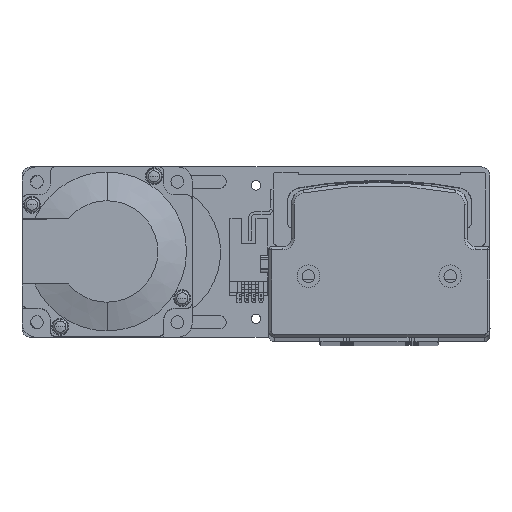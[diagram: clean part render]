
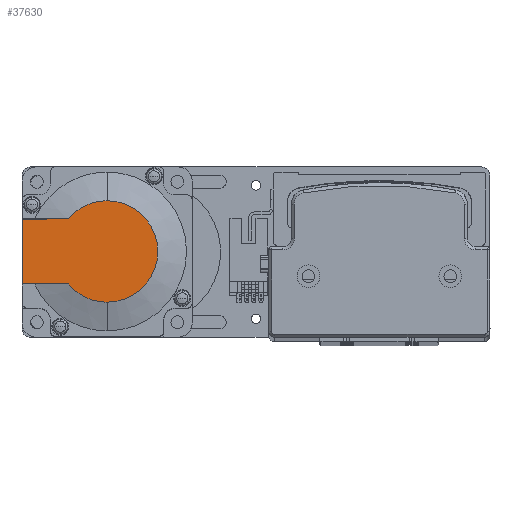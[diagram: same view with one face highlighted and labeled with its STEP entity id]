
A CAD part, top view. The second image highlights one B-rep face of the part: STEP entity #37630.
In plain terms, the highlighted planar face has unit normal (0, 0, 1) as drawn and (-1, 0, 0) by its records, which use the part's own axes.
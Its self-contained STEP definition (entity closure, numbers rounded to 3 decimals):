
#1257 = CARTESIAN_POINT ( 'NONE',  ( -118.5, 30., 25. ) ) ;
#3081 = DIRECTION ( 'NONE',  ( -1., 0., 0. ) ) ;
#3343 = LINE ( 'NONE', #38370, #23041 ) ;
#4553 = VERTEX_POINT ( 'NONE', #32052 ) ;
#5019 = DIRECTION ( 'NONE',  ( 0., -1., 0. ) ) ;
#6267 = VERTEX_POINT ( 'NONE', #44534 ) ;
#6303 = CARTESIAN_POINT ( 'NONE',  ( -118.5, 0., 17.881 ) ) ;
#7827 = LINE ( 'NONE', #1257, #18345 ) ;
#8813 = DIRECTION ( 'NONE',  ( -1., 0., 0. ) ) ;
#9183 = AXIS2_PLACEMENT_3D ( 'NONE', #37335, #13806, #41279 ) ;
#11528 = VERTEX_POINT ( 'NONE', #6303 ) ;
#13806 = DIRECTION ( 'NONE',  ( -1., 0., 0. ) ) ;
#14307 = EDGE_CURVE ( 'NONE', #34174, #48739, #37316, .T. ) ;
#14963 = AXIS2_PLACEMENT_3D ( 'NONE', #26665, #3081, #30587 ) ;
#15202 = CIRCLE ( 'NONE', #9183, 17.881 ) ;
#15334 = ORIENTED_EDGE ( 'NONE', *, *, #14307, .T. ) ;
#15615 = CARTESIAN_POINT ( 'NONE',  ( -118.5, 0., 0. ) ) ;
#16728 = CARTESIAN_POINT ( 'NONE',  ( -118.5, 0., 11.45 ) ) ;
#17203 = ORIENTED_EDGE ( 'NONE', *, *, #18127, .F. ) ;
#18127 = EDGE_CURVE ( 'NONE', #21748, #6267, #7827, .T. ) ;
#18345 = VECTOR ( 'NONE', #24858, 1000. ) ;
#19578 = DIRECTION ( 'NONE',  ( 0., 0., -1. ) ) ;
#20281 = CIRCLE ( 'NONE', #29916, 17.881 ) ;
#20417 = FACE_OUTER_BOUND ( 'NONE', #48137, .T. ) ;
#21748 = VERTEX_POINT ( 'NONE', #45082 ) ;
#22581 = EDGE_CURVE ( 'NONE', #11528, #4553, #20281, .T. ) ;
#23041 = VECTOR ( 'NONE', #42299, 1000. ) ;
#23427 = EDGE_CURVE ( 'NONE', #48739, #11528, #15202, .T. ) ;
#24858 = DIRECTION ( 'NONE',  ( 0., 0., 1. ) ) ;
#26665 = CARTESIAN_POINT ( 'NONE',  ( -118.5, -8.941, 0. ) ) ;
#29916 = AXIS2_PLACEMENT_3D ( 'NONE', #15615, #43090, #19578 ) ;
#30587 = DIRECTION ( 'NONE',  ( 0., 0., 1. ) ) ;
#32052 = CARTESIAN_POINT ( 'NONE',  ( -118.5, 13.735, 11.45 ) ) ;
#32344 = CARTESIAN_POINT ( 'NONE',  ( -118.5, 0., 0. ) ) ;
#34174 = VERTEX_POINT ( 'NONE', #44699 ) ;
#34366 = PLANE ( 'NONE',  #14963 ) ;
#34443 = EDGE_CURVE ( 'NONE', #6267, #4553, #47809, .T. ) ;
#36325 = DIRECTION ( 'NONE',  ( 0., 0., -1. ) ) ;
#36934 = ORIENTED_EDGE ( 'NONE', *, *, #50437, .T. ) ;
#37316 = CIRCLE ( 'NONE', #43064, 17.881 ) ;
#37335 = CARTESIAN_POINT ( 'NONE',  ( -118.5, 0., 0. ) ) ;
#37630 = ADVANCED_FACE ( 'NONE', ( #20417 ), #34366, .T. ) ;
#37669 = ORIENTED_EDGE ( 'NONE', *, *, #23427, .T. ) ;
#38370 = CARTESIAN_POINT ( 'NONE',  ( -118.5, -8.941, -11.45 ) ) ;
#38608 = VECTOR ( 'NONE', #5019, 1000. ) ;
#41279 = DIRECTION ( 'NONE',  ( 0., 0., -1. ) ) ;
#42299 = DIRECTION ( 'NONE',  ( 0., -1., 0. ) ) ;
#43064 = AXIS2_PLACEMENT_3D ( 'NONE', #32344, #8813, #36325 ) ;
#43090 = DIRECTION ( 'NONE',  ( -1., 0., 0. ) ) ;
#44534 = CARTESIAN_POINT ( 'NONE',  ( -118.5, 30., 11.45 ) ) ;
#44692 = CARTESIAN_POINT ( 'NONE',  ( -118.5, 0., -17.881 ) ) ;
#44699 = CARTESIAN_POINT ( 'NONE',  ( -118.5, 13.735, -11.45 ) ) ;
#45082 = CARTESIAN_POINT ( 'NONE',  ( -118.5, 30., -11.45 ) ) ;
#46853 = ORIENTED_EDGE ( 'NONE', *, *, #34443, .F. ) ;
#47809 = LINE ( 'NONE', #16728, #38608 ) ;
#48137 = EDGE_LOOP ( 'NONE', ( #36934, #15334, #37669, #50131, #46853, #17203 ) ) ;
#48739 = VERTEX_POINT ( 'NONE', #44692 ) ;
#50131 = ORIENTED_EDGE ( 'NONE', *, *, #22581, .T. ) ;
#50437 = EDGE_CURVE ( 'NONE', #21748, #34174, #3343, .T. ) ;
